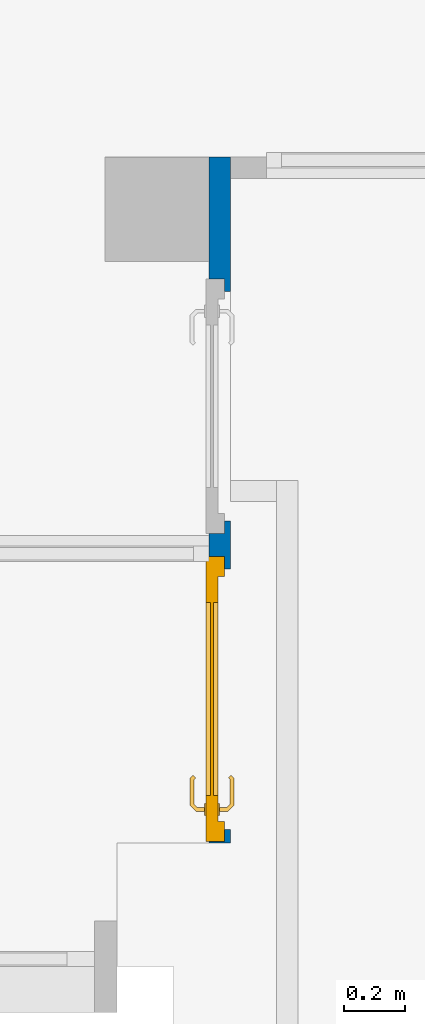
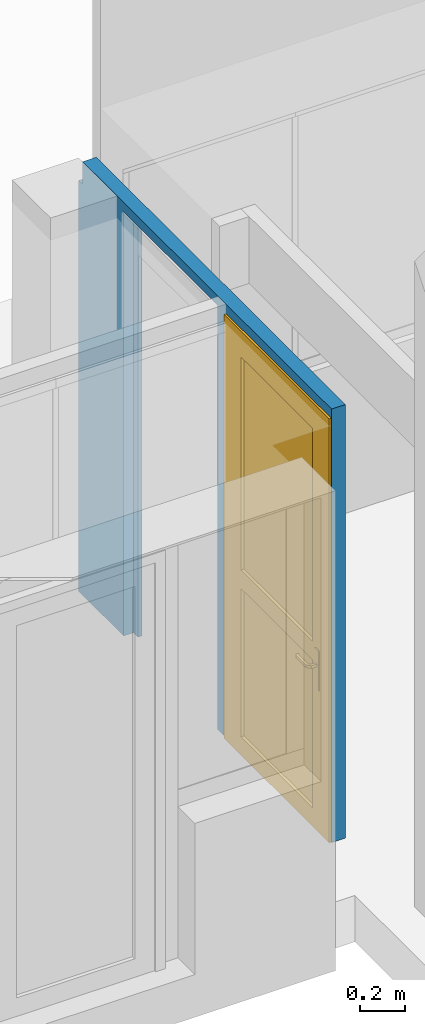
# One storey, part 8 of 19: 1 door, 1 wall, 2 openings.
"""IFC4 building model written with IfcOpenShell, lengths in metres."""

from ifc_helpers import new_model, entity, si_unit, converted_unit, derived_unit, direction, frame, origin, place, context, subcontext, project, spatial, polygons, source, transform, mapped, material, material_list, layer, layer_set, constituent, constituent_set, type_object, type_shapes, element, fill, save


model = new_model("IFC4")

# Units and contexts
model_context = context("Model", 3, precision=1e-05, world=origin(), true_north=direction((6.12303176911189e-17, 1.0)))
body_context = subcontext(model_context, "Body", "Model", "MODEL_VIEW")
ifc_project = project(units=[si_unit("LENGTHUNIT", "METRE"), si_unit("AREAUNIT", "SQUARE_METRE"), si_unit("VOLUMEUNIT", "CUBIC_METRE"), converted_unit("PLANEANGLEUNIT", "DEGREE", entity("IfcRatioMeasure", 0.0174532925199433), si_unit("PLANEANGLEUNIT", "RADIAN"), dimensions=[0, 0, 0, 0, 0, 0, 0]), si_unit("MASSUNIT", "GRAM", prefix="KILO"), derived_unit("MASSDENSITYUNIT", [(si_unit("MASSUNIT", "GRAM", prefix="KILO"), 1), (si_unit("LENGTHUNIT", "METRE"), -3)]), derived_unit("MOMENTOFINERTIAUNIT", [(si_unit("LENGTHUNIT", "METRE"), 4)]), si_unit("TIMEUNIT", "SECOND"), si_unit("FREQUENCYUNIT", "HERTZ"), si_unit("THERMODYNAMICTEMPERATUREUNIT", "DEGREE_CELSIUS"), derived_unit("THERMALTRANSMITTANCEUNIT", [(si_unit("MASSUNIT", "GRAM", prefix="KILO"), 1), (si_unit("THERMODYNAMICTEMPERATUREUNIT", "KELVIN"), -1), (si_unit("TIMEUNIT", "SECOND"), -3)]), derived_unit("VOLUMETRICFLOWRATEUNIT", [(si_unit("LENGTHUNIT", "METRE"), 3), (si_unit("TIMEUNIT", "SECOND"), -1)]), si_unit("ELECTRICCURRENTUNIT", "AMPERE"), si_unit("ELECTRICVOLTAGEUNIT", "VOLT"), si_unit("POWERUNIT", "WATT"), si_unit("FORCEUNIT", "NEWTON", prefix="KILO"), si_unit("ILLUMINANCEUNIT", "LUX"), si_unit("LUMINOUSFLUXUNIT", "LUMEN"), si_unit("LUMINOUSINTENSITYUNIT", "CANDELA"), derived_unit("USERDEFINED", [(si_unit("MASSUNIT", "GRAM", prefix="KILO"), -1), (si_unit("LENGTHUNIT", "METRE"), -2), (si_unit("TIMEUNIT", "SECOND"), 3), (si_unit("LUMINOUSFLUXUNIT", "LUMEN"), 1)]), derived_unit("LINEARVELOCITYUNIT", [(si_unit("LENGTHUNIT", "METRE"), 1), (si_unit("TIMEUNIT", "SECOND"), -1)]), si_unit("PRESSUREUNIT", "PASCAL"), derived_unit("USERDEFINED", [(si_unit("LENGTHUNIT", "METRE"), -2), (si_unit("MASSUNIT", "GRAM", prefix="KILO"), 1), (si_unit("TIMEUNIT", "SECOND"), -2)]), derived_unit("LINEARFORCEUNIT", [(si_unit("MASSUNIT", "GRAM", prefix="KILO"), 1), (si_unit("LENGTHUNIT", "METRE"), 1), (si_unit("TIMEUNIT", "SECOND"), -2), (si_unit("LENGTHUNIT", "METRE"), -1)]), derived_unit("PLANARFORCEUNIT", [(si_unit("MASSUNIT", "GRAM", prefix="KILO"), 1), (si_unit("LENGTHUNIT", "METRE"), 1), (si_unit("TIMEUNIT", "SECOND"), -2), (si_unit("LENGTHUNIT", "METRE"), -2)])], contexts=[model_context])

# Site, building, storey
site_placement = place(None, origin())
site = spatial("IfcSite", under=ifc_project, at=site_placement, Name="Default", CompositionType="ELEMENT")
building_placement = place(site_placement, origin())
building = spatial("IfcBuilding", under=site, at=building_placement, Name="HOTEL CONSULAIRE BOULOGNE SUR MER", CompositionType="ELEMENT")
storey_placement = place(building_placement, frame((0.0, 0.0, -4.01003075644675)))
storey = spatial("IfcBuildingStorey", under=building, at=storey_placement, Name="SS2", CompositionType="ELEMENT", Elevation=-4.01003075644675)

# Wall, openings, door
ifc_material_1 = material(Name="Mur par défaut", Category="Divers")
ifc_layer = layer(ifc_material_1, 0.07, Name="Mur par défaut", Category="Divers")
ifc_layer_set = layer_set([ifc_layer], Name="Mur de base:Générique - Int. 70 mm")
wall_type = type_object("IfcWallType", Name="Mur de base:Générique - Int. 70 mm", PredefinedType="NOTDEFINED", material=ifc_layer_set)
wall_placement = place(storey_placement, frame((-13.5103496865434, -14.4833241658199, 0.0), z_axis=(0.0, 0.0, 1.0), x_axis=(0.0, 1.0, 0.0)))
wall = element("IfcWall", 1, at=wall_placement, inside=storey, type_object=wall_type, material=ifc_layer_set, Name="Mur de base:Générique - Int. 70 mm", ObjectType="Mur de base:Générique - Int. 70 mm", PredefinedType="NOTDEFINED", context=body_context, shape_type="Tessellation", body=[
    polygons([(1.05000000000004, -0.0150000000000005, 0.0), (1.05000000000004, -0.0349999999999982, 0.0), (0.893999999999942, -0.0349999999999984, 0.0), (0.893999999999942, -0.0150000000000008, 0.0), (0.933999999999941, -0.0150000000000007, 0.0), (0.933999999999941, 0.0350000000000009, 0.0), (1.00399999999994, 0.035000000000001, 0.0), (1.01000000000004, 0.035000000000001, 0.0), (1.01000000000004, -0.0149999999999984, 0.0), (1.79999999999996, -0.0349999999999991, 0.0), (1.79999999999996, -0.0149999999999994, 0.0), (1.83999999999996, -0.0149999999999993, 0.0), (1.83999999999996, 0.0350000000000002, 0.0), (2.23817489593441, 0.0350000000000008, 0.0), (2.23817489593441, -0.0349999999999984, 0.0), (2.16817489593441, -0.0349999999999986, 0.0), (2.20317489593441, -0.0349999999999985, 2.34113097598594), (1.888, -0.0349999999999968, 2.34113097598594), (0.0, -0.0349999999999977, 2.34113097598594), (0.0, -0.0349999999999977, 0.0), (0.0440000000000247, -0.0349999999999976, 0.0), (0.0440000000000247, -0.0349999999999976, 2.25000000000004), (0.893999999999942, -0.0349999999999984, 2.25000000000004), (1.05000000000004, -0.0349999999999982, 2.25000000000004), (1.79999999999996, -0.034999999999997, 2.25000000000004), (2.23817489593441, -0.0349999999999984, 2.21931211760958), (2.20317489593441, -0.0349999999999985, 2.21931211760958), (0.0, 0.0350000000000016, 2.34113097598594), (0.933999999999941, 0.0350000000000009, 2.34113097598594), (1.00399999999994, 0.035000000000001, 2.34113097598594), (2.20317489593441, 0.0350000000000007, 2.34113097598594), (2.20317489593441, 0.0350000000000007, 2.21931211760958), (2.23817489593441, 0.0350000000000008, 2.21931211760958), (1.83999999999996, 0.0350000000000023, 2.29000000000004), (1.01000000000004, 0.035000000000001, 2.29000000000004), (0.933999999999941, 0.0350000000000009, 0.824265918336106), (0.933999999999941, 0.0350000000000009, 2.25353263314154), (0.933999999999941, 0.0350000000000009, 2.29000000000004), (0.00400000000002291, 0.0350000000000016, 2.29000000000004), (0.00400000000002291, 0.0350000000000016, 0.0), (0.0, 0.0350000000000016, 0.0), (0.00400000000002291, -0.015, 0.0), (0.0440000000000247, -0.015, 0.0), (0.0440000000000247, -0.015, 2.25000000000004), (0.893999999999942, -0.0149999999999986, 2.25000000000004), (0.00400000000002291, -0.0149999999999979, 2.29000000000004), (0.933999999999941, -0.0150000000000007, 2.29000000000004), (1.05000000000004, -0.0149999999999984, 2.25000000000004), (1.79999999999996, -0.0149999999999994, 2.25000000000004), (1.83999999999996, -0.0149999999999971, 2.29000000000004), (1.01000000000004, -0.0149999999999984, 2.29000000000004)], [[[2, 3, 4, 5, 6, 7, 8, 9, 1]], [[16, 10, 11, 12, 13, 14, 15]], [[43, 21, 20, 41, 40, 42]], [[45, 23, 22, 44]], [[46, 39, 38, 47]], [[25, 24, 48, 49]], [[35, 34, 50, 51]], [[20, 21, 22, 23, 3, 2, 24, 25, 10, 16, 15, 26, 27, 17, 18, 19]], [[14, 13, 34, 35, 8, 7, 6, 36, 37, 38, 39, 40, 41, 28, 29, 30, 31, 32, 33]], [[43, 42, 46, 47, 5, 4, 45, 44]], [[49, 48, 1, 9, 51, 50, 12, 11]], [[18, 17, 31, 30, 29, 28, 19]], [[33, 32, 27, 26]], [[20, 19, 28, 41]], [[23, 45, 4, 3]], [[47, 38, 37, 36, 6, 5]], [[10, 25, 49, 11]], [[34, 13, 12, 50]], [[44, 22, 21, 43]], [[42, 40, 39, 46]], [[1, 48, 24, 2]], [[8, 35, 51, 9]], [[17, 27, 32, 31]], [[26, 15, 14, 33]]], closed=True),
])
opening_1_placement = place(wall_placement, frame((1.01000000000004, 0.334999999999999, 0.0), z_axis=(0.0, 0.0, 1.0), x_axis=(0.0, -1.0, 0.0)))
element("IfcOpeningElement", 2, at=opening_1_placement, cuts=wall, Name="Mur de base:Générique - Int. 70 mm", ObjectType="Opening", PredefinedType="OPENING", context=body_context, shape_type="Tessellation", body=[
    polygons([(0.670000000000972, 0.789999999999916, 2.25000000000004), (0.350000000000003, 0.789999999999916, 2.25000000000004), (0.350000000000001, 0.0399999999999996, 2.25000000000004), (0.67000000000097, 0.0399999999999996, 2.25000000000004), (0.670000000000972, 0.789999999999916, 0.0), (0.350000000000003, 0.789999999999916, 0.0), (2.16573425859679e-15, 0.0399999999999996, 0.0), (0.300000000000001, 0.0399999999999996, 0.0), (0.300000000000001, 0.0399999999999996, 2.25000000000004), (2.16573425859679e-15, 0.0399999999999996, 2.25000000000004), (0.300000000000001, 0.789999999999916, 2.25000000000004), (2.16573425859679e-15, 0.789999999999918, 2.25000000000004), (0.67000000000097, 0.0399999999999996, 0.0), (0.350000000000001, 0.0399999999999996, 0.0), (0.350000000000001, 0.0, 0.0), (0.300000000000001, 0.0, 0.0), (2.16573425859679e-15, 0.789999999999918, 0.0), (0.300000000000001, 0.789999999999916, 0.0), (0.300000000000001, 0.829999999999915, 0.0), (0.350000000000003, 0.829999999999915, 0.0), (0.299999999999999, -2.16573425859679e-15, 2.29000000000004), (0.300000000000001, 0.829999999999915, 2.29000000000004), (0.350000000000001, 0.829999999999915, 2.29000000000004), (0.350000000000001, -2.16573425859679e-15, 2.29000000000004)], [[[3, 4, 1, 2]], [[10, 9, 11, 12]], [[23, 22, 21, 24]], [[2, 1, 5, 6]], [[12, 11, 18, 17]], [[20, 19, 22, 23]], [[9, 10, 7, 8]], [[4, 3, 14, 13]], [[24, 21, 16, 15]], [[6, 5, 13, 14, 15, 16, 8, 7, 17, 18, 19, 20]], [[1, 4, 13, 5]], [[6, 20, 23, 24, 15, 14, 3, 2]], [[10, 12, 17, 7]], [[8, 16, 21, 22, 19, 18, 11, 9]]], closed=True),
])
opening_2_placement = place(wall_placement, frame((0.00400000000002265, 0.334999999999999, 0.0), z_axis=(0.0, 0.0, 1.0), x_axis=(0.0, -1.0, 0.0)))
opening_2 = element("IfcOpeningElement", 3, at=opening_2_placement, cuts=wall, Name="Mur de base:Générique - Int. 70 mm", ObjectType="Opening", PredefinedType="OPENING", context=body_context, shape_type="Tessellation", body=[
    polygons([(2.16573425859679e-15, 0.889999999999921, 2.25000000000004), (0.0, 0.0400000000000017, 2.25000000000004), (0.299999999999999, 0.0400000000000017, 2.25000000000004), (0.300000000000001, 0.889999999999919, 2.25000000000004), (0.0, 0.0400000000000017, 0.0), (0.299999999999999, 0.0400000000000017, 0.0), (0.0, 0.889999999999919, 0.0), (0.299999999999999, 0.889999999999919, 0.0), (0.67000000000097, 0.0400000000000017, 2.25000000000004), (0.670000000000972, 0.889999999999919, 2.25000000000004), (0.350000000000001, 0.889999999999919, 2.25000000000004), (0.350000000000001, 0.0400000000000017, 2.25000000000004), (0.670000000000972, 0.889999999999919, 0.0), (0.67000000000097, 0.0400000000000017, 0.0), (0.350000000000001, 0.0400000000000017, 0.0), (0.350000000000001, 2.16573425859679e-15, 0.0), (0.299999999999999, 2.16573425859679e-15, 0.0), (0.300000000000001, 0.929999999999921, 0.0), (0.350000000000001, 0.929999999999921, 0.0), (0.350000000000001, 0.889999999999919, 0.0), (0.299999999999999, 2.16573425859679e-15, 2.29000000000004), (0.300000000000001, 0.929999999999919, 2.29000000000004), (0.349999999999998, 0.0, 2.29000000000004), (0.350000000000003, 0.929999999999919, 2.29000000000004)], [[[3, 4, 1, 2]], [[12, 9, 10, 11]], [[22, 21, 23, 24]], [[5, 6, 3, 2]], [[14, 9, 12, 15]], [[21, 17, 16, 23]], [[8, 7, 1, 4]], [[20, 11, 10, 13]], [[18, 22, 24, 19]], [[13, 14, 15, 16, 17, 6, 5, 7, 8, 18, 19, 20]], [[13, 10, 9, 14]], [[12, 11, 20, 19, 24, 23, 16, 15]], [[5, 2, 1, 7]], [[4, 3, 6, 17, 21, 22, 18, 8]]], closed=True),
])
ifc_material_2 = material(Name="PVC - Blanc", Category="Plastique")
ifc_constituent_1 = constituent(ifc_material_2, Name="PVC - Blanc", Category="Matériaux")
ifc_material_3 = material(Name="Verre", Category="Verre")
ifc_constituent_2 = constituent(ifc_material_3, Name="Verre", Category="Matériaux")
ifc_constituent_set = constituent_set(constituents=[ifc_constituent_1, ifc_constituent_2], Name="MaterialConstituentSet")
ifc_material_list = material_list([ifc_material_2, ifc_material_2, ifc_material_2])
door_type = type_object("IfcDoorType", Name="PVC Panneau Vitré :0.83m x 2.24", OperationType="SINGLE_SWING_LEFT", PredefinedType="DOOR", material=ifc_material_list)
shared_shape = source(origin(), body_context, "Body", "Tessellation", [
    polygons([(0.818999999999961, 0.40500000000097, 0.893000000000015), (0.822974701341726, 0.40500000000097, 0.892219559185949), (0.827025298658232, 0.40500000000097, 0.892219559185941), (0.830999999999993, 0.40500000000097, 0.892999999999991), (0.830999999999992, 0.40500000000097, 0.906999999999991), (0.827025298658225, 0.40500000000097, 0.907780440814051), (0.822974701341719, 0.40500000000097, 0.907780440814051), (0.818999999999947, 0.40500000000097, 0.90699999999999), (0.818999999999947, 0.427485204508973, 0.90699999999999), (0.818999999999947, 0.427485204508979, 0.893000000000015), (0.830999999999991, 0.432455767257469, 0.906999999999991), (0.827025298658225, 0.430809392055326, 0.907780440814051), (0.822974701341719, 0.429131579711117, 0.907780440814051), (0.830999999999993, 0.432455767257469, 0.892999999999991), (0.822974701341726, 0.42913157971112, 0.892219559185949), (0.827025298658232, 0.430809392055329, 0.892219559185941), (0.807514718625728, 0.438970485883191, 0.90699999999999), (0.807514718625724, 0.438970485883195, 0.893000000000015), (0.812485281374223, 0.450970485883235, 0.906999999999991), (0.810838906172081, 0.446995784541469, 0.907780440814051), (0.809161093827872, 0.442945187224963, 0.907780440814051), (0.812485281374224, 0.450970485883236, 0.892999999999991), (0.809161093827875, 0.44294518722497, 0.892219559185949), (0.810838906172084, 0.446995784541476, 0.892219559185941), (0.727439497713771, 0.438970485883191, 0.90699999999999), (0.727439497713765, 0.438970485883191, 0.893000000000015), (0.722468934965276, 0.450970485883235, 0.906999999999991), (0.724115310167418, 0.446995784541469, 0.90778044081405), (0.725793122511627, 0.442945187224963, 0.907780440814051), (0.762399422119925, 0.450970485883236, 0.906999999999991), (0.767477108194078, 0.445124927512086, 0.907878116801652), (0.76747710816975, 0.438970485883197, 0.906999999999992), (0.722468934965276, 0.450970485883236, 0.89299999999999), (0.725793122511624, 0.44294518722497, 0.892219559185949), (0.724115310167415, 0.446995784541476, 0.892219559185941), (0.772554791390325, 0.450970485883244, 0.892999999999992), (0.76747710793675, 0.445124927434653, 0.892121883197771), (0.76747710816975, 0.438970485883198, 0.893000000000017), (0.722125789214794, 0.433656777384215, 0.893000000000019), (0.72212578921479, 0.433656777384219, 0.906999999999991), (0.719315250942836, 0.436467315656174, 0.907780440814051), (0.716451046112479, 0.439331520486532, 0.90778044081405), (0.713640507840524, 0.442142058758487, 0.90699999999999), (0.713640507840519, 0.442142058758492, 0.892999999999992), (0.716451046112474, 0.439331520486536, 0.892219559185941), (0.719315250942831, 0.436467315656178, 0.892219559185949)], [[[2, 3, 4, 5, 6, 7, 8, 1]], [[18, 17, 32, 25, 26, 38]], [[9, 10, 1, 8]], [[7, 13, 9, 8]], [[7, 6, 12, 20, 21, 13]], [[29, 28, 42, 41]], [[5, 11, 12, 6]], [[11, 5, 4, 14]], [[4, 3, 16, 14]], [[3, 2, 15, 23, 24, 16]], [[35, 34, 46, 45]], [[2, 1, 10, 15]], [[17, 18, 10, 9]], [[41, 42, 43, 44, 45, 46, 39, 40]], [[9, 13, 21, 17]], [[11, 19, 20, 12]], [[22, 19, 11, 14]], [[14, 16, 24, 22]], [[15, 10, 18, 23]], [[31, 32, 21]], [[30, 27, 28]], [[30, 20, 19]], [[31, 20, 30]], [[29, 32, 31]], [[31, 28, 29]], [[17, 21, 32]], [[32, 29, 25]], [[20, 31, 21]], [[28, 31, 30]], [[19, 22, 36, 33, 27, 30]], [[24, 37, 36]], [[35, 36, 37]], [[36, 22, 24]], [[36, 35, 33]], [[23, 38, 37]], [[37, 24, 23]], [[37, 38, 34]], [[38, 23, 18]], [[26, 34, 38]], [[35, 37, 34]], [[40, 39, 26, 25]], [[25, 29, 41, 40]], [[28, 27, 43, 42]], [[44, 43, 27, 33]], [[35, 45, 44, 33]], [[26, 39, 46, 34]]], closed=True),
    polygons([(0.830999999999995, 0.35500000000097, 0.906999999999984), (0.831000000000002, 0.35500000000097, 0.892999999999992), (0.827025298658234, 0.35500000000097, 0.892219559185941), (0.822974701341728, 0.35500000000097, 0.892219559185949), (0.81899999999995, 0.35500000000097, 0.893000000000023), (0.818999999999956, 0.35500000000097, 0.906999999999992), (0.822974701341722, 0.35500000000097, 0.907780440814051), (0.827025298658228, 0.35500000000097, 0.90778044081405), (0.818999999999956, 0.332319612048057, 0.906999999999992), (0.822974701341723, 0.330673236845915, 0.907780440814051), (0.827025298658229, 0.328995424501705, 0.90778044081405), (0.830999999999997, 0.327349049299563, 0.90699999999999), (0.81899999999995, 0.332319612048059, 0.893000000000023), (0.831000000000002, 0.32734904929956, 0.892999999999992), (0.827025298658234, 0.328995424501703, 0.892219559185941), (0.822974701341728, 0.330673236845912, 0.892219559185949), (0.807652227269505, 0.320971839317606, 0.906999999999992), (0.809298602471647, 0.31699713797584, 0.907780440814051), (0.810976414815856, 0.312946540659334, 0.90778044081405), (0.812622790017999, 0.308971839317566, 0.90699999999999), (0.807652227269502, 0.320971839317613, 0.893000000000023), (0.812622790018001, 0.308971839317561, 0.892999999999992), (0.810976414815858, 0.312946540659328, 0.892219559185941), (0.809298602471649, 0.316997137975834, 0.892219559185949), (0.727466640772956, 0.320971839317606, 0.906999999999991), (0.725820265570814, 0.31699713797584, 0.907780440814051), (0.724142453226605, 0.312946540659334, 0.90778044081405), (0.722496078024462, 0.308971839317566, 0.90699999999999), (0.77269230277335, 0.308971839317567, 0.90699999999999), (0.76755943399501, 0.314817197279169, 0.907878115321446), (0.767559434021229, 0.32097183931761, 0.90699999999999), (0.727466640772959, 0.320971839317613, 0.893000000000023), (0.72249607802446, 0.308971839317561, 0.892999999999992), (0.724142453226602, 0.312946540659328, 0.892219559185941), (0.725820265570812, 0.316997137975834, 0.892219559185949), (0.762426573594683, 0.308971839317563, 0.892999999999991), (0.767559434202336, 0.314817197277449, 0.892121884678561), (0.767559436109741, 0.320971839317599, 0.893000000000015), (0.71366765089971, 0.317800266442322, 0.90699999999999), (0.716478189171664, 0.320610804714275, 0.90778044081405), (0.719342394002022, 0.323475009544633, 0.907780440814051), (0.722152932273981, 0.326285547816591, 0.906999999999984), (0.722152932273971, 0.326285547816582, 0.893000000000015), (0.719342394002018, 0.323475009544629, 0.892219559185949), (0.71647818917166, 0.320610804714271, 0.892219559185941), (0.71366765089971, 0.317800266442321, 0.892999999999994)], [[[7, 8, 1, 2, 3, 4, 5, 6]], [[17, 21, 38, 32, 25, 31]], [[1, 8, 11, 12]], [[8, 7, 10, 18, 19, 11]], [[27, 26, 41, 40]], [[7, 6, 9, 10]], [[13, 9, 6, 5]], [[4, 16, 13, 5]], [[4, 3, 15, 23, 24, 16]], [[35, 34, 45, 44]], [[2, 14, 15, 3]], [[12, 14, 2, 1]], [[12, 11, 19, 20]], [[10, 9, 17, 18]], [[21, 17, 9, 13]], [[43, 44, 45, 46, 39, 40, 41, 42]], [[13, 16, 24, 21]], [[15, 14, 22, 23]], [[20, 22, 14, 12]], [[19, 30, 29]], [[27, 29, 30]], [[29, 20, 19]], [[29, 27, 28]], [[18, 31, 30]], [[30, 19, 18]], [[30, 31, 26]], [[31, 18, 17]], [[25, 26, 31]], [[27, 30, 26]], [[37, 38, 24]], [[36, 33, 34]], [[36, 23, 22]], [[37, 23, 36]], [[35, 38, 37]], [[37, 34, 35]], [[21, 24, 38]], [[38, 35, 32]], [[23, 37, 24]], [[34, 37, 36]], [[22, 20, 29, 28, 33, 36]], [[27, 40, 39, 28]], [[25, 42, 41, 26]], [[43, 42, 25, 32]], [[32, 35, 44, 43]], [[34, 33, 46, 45]], [[39, 46, 33, 28]]], closed=True),
    polygons([(0.804999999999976, 0.40000000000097, 0.980000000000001), (0.804999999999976, 0.40000000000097, 0.770000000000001), (0.814647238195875, 0.40000000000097, 0.766003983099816), (0.824999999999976, 0.40000000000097, 0.764641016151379), (0.835352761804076, 0.40000000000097, 0.766003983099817), (0.844999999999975, 0.40000000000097, 0.770000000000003), (0.844999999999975, 0.40000000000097, 0.980000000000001), (0.835352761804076, 0.40000000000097, 0.983996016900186), (0.824999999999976, 0.40000000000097, 0.985358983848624), (0.814647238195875, 0.40000000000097, 0.983996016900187), (0.804999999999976, 0.405000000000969, 0.980000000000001), (0.814647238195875, 0.40500000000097, 0.983996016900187), (0.824999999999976, 0.40500000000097, 0.985358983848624), (0.835352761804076, 0.40500000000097, 0.983996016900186), (0.844999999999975, 0.40500000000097, 0.980000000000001), (0.844999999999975, 0.40500000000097, 0.770000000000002), (0.835352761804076, 0.40500000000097, 0.766003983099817), (0.824999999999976, 0.40500000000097, 0.764641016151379), (0.814647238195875, 0.40500000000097, 0.766003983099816), (0.804999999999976, 0.405000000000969, 0.770000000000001)], [[[4, 5, 6, 7, 8, 9, 10, 1, 2, 3]], [[13, 14, 15, 16, 17, 18, 19, 20, 11, 12]], [[10, 12, 11, 1]], [[9, 13, 12, 10]], [[8, 14, 13, 9]], [[8, 7, 15, 14]], [[15, 7, 6, 16]], [[5, 17, 16, 6]], [[4, 18, 17, 5]], [[3, 19, 18, 4]], [[3, 2, 20, 19]], [[20, 2, 1, 11]]], closed=True),
    polygons([(0.844999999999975, 0.35500000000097, 0.770000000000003), (0.844999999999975, 0.35500000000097, 0.980000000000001), (0.835352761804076, 0.35500000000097, 0.983996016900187), (0.824999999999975, 0.35500000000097, 0.985358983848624), (0.814647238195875, 0.35500000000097, 0.983996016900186), (0.804999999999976, 0.35500000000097, 0.980000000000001), (0.804999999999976, 0.35500000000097, 0.770000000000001), (0.814647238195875, 0.35500000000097, 0.766003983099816), (0.824999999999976, 0.35500000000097, 0.764641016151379), (0.835352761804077, 0.35500000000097, 0.766003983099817), (0.844999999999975, 0.36000000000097, 0.770000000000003), (0.835352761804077, 0.36000000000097, 0.766003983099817), (0.824999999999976, 0.36000000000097, 0.764641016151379), (0.814647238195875, 0.36000000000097, 0.766003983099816), (0.804999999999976, 0.36000000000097, 0.770000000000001), (0.804999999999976, 0.36000000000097, 0.980000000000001), (0.814647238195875, 0.36000000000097, 0.983996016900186), (0.824999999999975, 0.36000000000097, 0.985358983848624), (0.835352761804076, 0.36000000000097, 0.983996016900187), (0.844999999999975, 0.36000000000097, 0.980000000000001)], [[[9, 10, 1, 2, 3, 4, 5, 6, 7, 8]], [[20, 11, 12, 13, 14, 15, 16, 17, 18, 19]], [[10, 12, 11, 1]], [[9, 13, 12, 10]], [[8, 14, 13, 9]], [[8, 7, 15, 14]], [[15, 7, 6, 16]], [[5, 17, 16, 6]], [[4, 18, 17, 5]], [[3, 19, 18, 4]], [[3, 2, 20, 19]], [[20, 2, 1, 11]]], closed=True),
    polygons([(0.929999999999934, 0.36000000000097, 0.0), (0.879999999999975, 0.36000000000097, 0.0), (0.879999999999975, 0.40000000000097, 0.0), (0.864999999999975, 0.40000000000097, 0.0), (0.864999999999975, 0.42000000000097, 0.0), (0.929999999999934, 0.42000000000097, 0.0), (0.929999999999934, 0.42000000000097, 2.29000000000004), (0.929999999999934, 0.36000000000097, 2.29000000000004), (0.864999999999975, 0.42000000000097, 2.22500000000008), (0.0649999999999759, 0.42000000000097, 2.22500000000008), (0.0649999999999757, 0.42000000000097, 1.39163836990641e-24), (1.65137237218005e-14, 0.42000000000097, 6.18310647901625e-24), (1.65137237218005e-14, 0.42000000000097, 2.29000000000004), (0.864999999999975, 0.40000000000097, 2.22500000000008), (0.879999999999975, 0.40000000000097, 2.24000000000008), (0.0499999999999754, 0.40000000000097, 2.24000000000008), (0.0499999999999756, 0.40000000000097, 1.06968753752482e-24), (0.0649999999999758, 0.40000000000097, 1.76770455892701e-24), (0.0649999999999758, 0.40000000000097, 2.22500000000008), (0.879999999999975, 0.36000000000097, 2.24000000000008), (1.64460445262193e-14, 0.36000000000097, 2.29000000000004), (1.64460445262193e-14, 0.36000000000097, 5.18655994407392e-24), (0.0499999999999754, 0.36000000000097, 1.7288530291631e-24), (0.0499999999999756, 0.36000000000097, 2.24000000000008)], [[[6, 1, 2, 3, 4, 5]], [[17, 23, 22, 12, 11, 18]], [[19, 10, 9, 14]], [[24, 16, 15, 20]], [[7, 8, 1, 6]], [[11, 10, 19, 18]], [[17, 16, 24, 23]], [[9, 10, 11, 12, 13, 7, 6, 5]], [[9, 5, 4, 14]], [[15, 3, 2, 20]], [[12, 22, 21, 13]], [[19, 14, 4, 3, 15, 16, 17, 18]], [[24, 20, 2, 1, 8, 21, 22, 23]], [[21, 8, 7, 13]]], closed=True),
    polygons([(0.779999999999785, 0.385000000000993, 2.15000000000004), (0.779999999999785, 0.385000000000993, 1.0), (0.149999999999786, 0.385000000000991, 1.0), (0.149999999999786, 0.385000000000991, 2.15000000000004), (0.779999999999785, 0.375000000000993, 2.15000000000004), (0.149999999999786, 0.375000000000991, 2.15000000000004), (0.149999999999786, 0.375000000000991, 1.0), (0.779999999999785, 0.375000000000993, 1.0)], [[[1, 2, 3, 4]], [[8, 5, 6, 7]], [[1, 5, 8, 2]], [[3, 2, 8, 7]], [[3, 7, 6, 4]], [[4, 6, 5, 1]]], closed=True),
    polygons([(0.149999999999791, 0.375000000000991, 0.9), (0.149999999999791, 0.375000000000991, 0.1), (0.779999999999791, 0.375000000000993, 0.1), (0.779999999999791, 0.375000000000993, 0.9), (0.149999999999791, 0.385000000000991, 0.9), (0.779999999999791, 0.385000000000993, 0.9), (0.779999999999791, 0.385000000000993, 0.1), (0.149999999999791, 0.385000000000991, 0.1)], [[[3, 4, 1, 2]], [[6, 7, 8, 5]], [[5, 1, 4, 6]], [[6, 4, 3, 7]], [[8, 7, 3, 2]], [[8, 2, 1, 5]]], closed=True),
    polygons([(0.879999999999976, 0.36000000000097, 2.24000000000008), (0.0499999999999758, 0.36000000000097, 2.24000000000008), (0.0499999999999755, 0.36000000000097, 2.70716777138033e-16), (0.879999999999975, 0.36000000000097, 2.70716782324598e-16), (0.149999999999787, 0.36000000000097, 2.15000000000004), (0.779999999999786, 0.36000000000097, 2.15000000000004), (0.779999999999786, 0.36000000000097, 1.0), (0.149999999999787, 0.36000000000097, 1.0), (0.149999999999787, 0.36000000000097, 0.1), (0.149999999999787, 0.36000000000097, 0.9), (0.779999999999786, 0.36000000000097, 0.9), (0.779999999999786, 0.36000000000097, 0.1), (0.879999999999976, 0.40000000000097, 2.24000000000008), (0.879999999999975, 0.40000000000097, 1.48859948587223e-16), (0.0499999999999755, 0.40000000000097, 2.70716781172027e-16), (0.0499999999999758, 0.40000000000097, 2.24000000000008), (0.149999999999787, 0.40000000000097, 2.15000000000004), (0.149999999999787, 0.40000000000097, 1.0), (0.779999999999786, 0.40000000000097, 1.0), (0.779999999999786, 0.40000000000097, 2.15000000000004), (0.149999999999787, 0.40000000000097, 0.1), (0.779999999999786, 0.40000000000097, 0.1), (0.779999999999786, 0.40000000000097, 0.9), (0.149999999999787, 0.40000000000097, 0.9)], [[[1, 2, 3, 4], [11, 12, 9, 10], [6, 7, 8, 5]], [[14, 15, 16, 13], [19, 20, 17, 18], [22, 23, 24, 21]], [[13, 1, 4, 14]], [[17, 5, 8, 18]], [[24, 10, 9, 21]], [[15, 14, 4, 3]], [[20, 6, 5, 17]], [[23, 11, 10, 24]], [[15, 3, 2, 16]], [[19, 7, 6, 20]], [[22, 12, 11, 23]], [[16, 2, 1, 13]], [[18, 8, 7, 19]], [[21, 9, 12, 22]]], closed=True),
])
type_shapes(door_type, [shared_shape])
door_placement = place(opening_2_placement, frame((-0.0700000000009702, 0.929999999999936, 0.0), z_axis=(0.0, 0.0, 1.0), x_axis=(0.0, -1.0, 0.0)))
door = element("IfcDoor", 4, at=door_placement, inside=storey, type_object=door_type, material=ifc_constituent_set, Name="PVC Panneau Vitré :0.83m x 2.24", ObjectType="PVC Panneau Vitré :0.83m x 2.24", OperationType="SINGLE_SWING_LEFT", OverallHeight=2.29000000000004, OverallWidth=0.929999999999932, PredefinedType="DOOR", context=body_context, shape_type="MappedRepresentation", body=[
    mapped(shared_shape, transform((0.0, 0.0, 0.0), scale=1.0)),
])
fill(opening_2, door)

save(model, "model.ifc")
